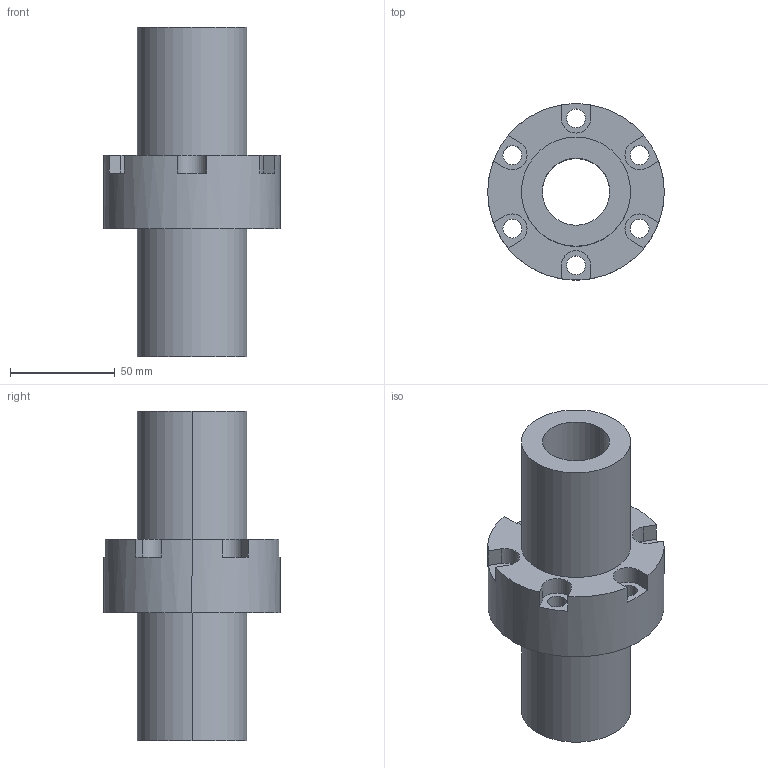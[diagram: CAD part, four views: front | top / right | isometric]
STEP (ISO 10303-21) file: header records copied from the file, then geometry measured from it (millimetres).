
FILE_DESCRIPTION((''),'2;1');
FILE_NAME('32-8T3','2008-04-03T',('yanyu'),(''),'PRO/ENGINEER BY PARAMETRIC TECHNOLOGY CORPORATION, 2005070','PRO/ENGINEER BY PARAMETRIC TECHNOLOGY CORPORATION, 2005070','');
FILE_SCHEMA(('CONFIG_CONTROL_DESIGN'));
Length unit declared in the file: millimetre
Products named in the file (1): 32-8T3
Bounding box: 84 x 84 x 157 mm (x, y, z)
Volume: 307889.3 mm3; surface area: 59215.4 mm2
Topology: 1 solids, 1 shells, 48 faces, 132 edges, 88 vertices
Faces by surface type: cylinder 26, plane 22
Entity records: 1626 total; most frequent: DIRECTION 292, CARTESIAN_POINT 268, ORIENTED_EDGE 264, EDGE_CURVE 132, AXIS2_PLACEMENT_3D 112, VERTEX_POINT 88, VECTOR 68, LINE 68
